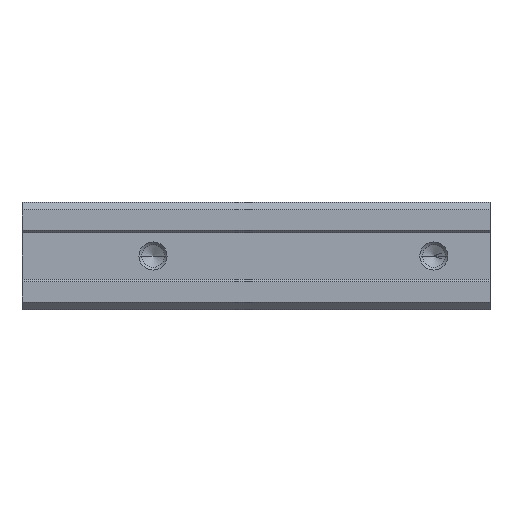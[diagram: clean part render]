
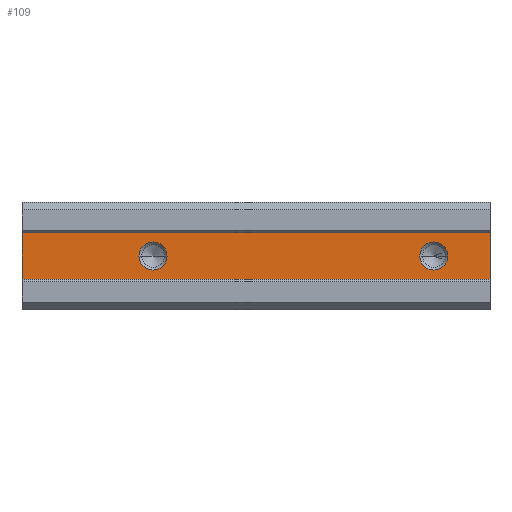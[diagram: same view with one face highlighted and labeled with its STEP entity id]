
A CAD part, front view. The second image highlights one B-rep face of the part: STEP entity #109.
In plain terms, the highlighted planar face has unit normal (0, -1, 0).
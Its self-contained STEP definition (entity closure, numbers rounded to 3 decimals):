
#109 = ADVANCED_FACE( '', ( #184, #185, #186 ), #187, .T. );
#184 = FACE_BOUND( '', #266, .T. );
#185 = FACE_BOUND( '', #267, .T. );
#186 = FACE_OUTER_BOUND( '', #268, .T. );
#187 = PLANE( '', #269 );
#266 = EDGE_LOOP( '', ( #514, #515 ) );
#267 = EDGE_LOOP( '', ( #516, #517 ) );
#268 = EDGE_LOOP( '', ( #518, #519, #520, #521 ) );
#269 = AXIS2_PLACEMENT_3D( '', #522, #523, #524 );
#514 = ORIENTED_EDGE( '', *, *, #623, .T. );
#515 = ORIENTED_EDGE( '', *, *, #624, .T. );
#516 = ORIENTED_EDGE( '', *, *, #617, .T. );
#517 = ORIENTED_EDGE( '', *, *, #626, .T. );
#518 = ORIENTED_EDGE( '', *, *, #695, .T. );
#519 = ORIENTED_EDGE( '', *, *, #696, .F. );
#520 = ORIENTED_EDGE( '', *, *, #697, .T. );
#521 = ORIENTED_EDGE( '', *, *, #693, .T. );
#522 = CARTESIAN_POINT( '', ( 0., 0.5, -5. ) );
#523 = DIRECTION( '', ( 0., -1., 0. ) );
#524 = DIRECTION( '', ( 0., 0., -1. ) );
#617 = EDGE_CURVE( '', #726, #728, #730, .T. );
#623 = EDGE_CURVE( '', #735, #737, #739, .T. );
#624 = EDGE_CURVE( '', #737, #735, #740, .T. );
#626 = EDGE_CURVE( '', #728, #726, #742, .T. );
#693 = EDGE_CURVE( '', #854, #852, #855, .T. );
#695 = EDGE_CURVE( '', #852, #857, #858, .T. );
#696 = EDGE_CURVE( '', #859, #857, #860, .T. );
#697 = EDGE_CURVE( '', #859, #854, #861, .T. );
#726 = VERTEX_POINT( '', #900 );
#728 = VERTEX_POINT( '', #903 );
#730 = CIRCLE( '', #906, 3. );
#735 = VERTEX_POINT( '', #913 );
#737 = VERTEX_POINT( '', #916 );
#739 = CIRCLE( '', #919, 3. );
#740 = CIRCLE( '', #920, 3. );
#742 = CIRCLE( '', #922, 3. );
#852 = VERTEX_POINT( '', #1092 );
#854 = VERTEX_POINT( '', #1095 );
#855 = LINE( '', #1096, #1097 );
#857 = VERTEX_POINT( '', #1100 );
#858 = LINE( '', #1101, #1102 );
#859 = VERTEX_POINT( '', #1103 );
#860 = LINE( '', #1104, #1105 );
#861 = LINE( '', #1106, #1107 );
#900 = CARTESIAN_POINT( '', ( 91., 0.5, 0. ) );
#903 = CARTESIAN_POINT( '', ( 85., 0.5, 0. ) );
#906 = AXIS2_PLACEMENT_3D( '', #1151, #1152, #1153 );
#913 = CARTESIAN_POINT( '', ( 31., 0.5, 0. ) );
#916 = CARTESIAN_POINT( '', ( 25., 0.5, 0. ) );
#919 = AXIS2_PLACEMENT_3D( '', #1161, #1162, #1163 );
#920 = AXIS2_PLACEMENT_3D( '', #1164, #1165, #1166 );
#922 = AXIS2_PLACEMENT_3D( '', #1170, #1171, #1172 );
#1092 = CARTESIAN_POINT( '', ( 100., 0.5, -5. ) );
#1095 = CARTESIAN_POINT( '', ( 0., 0.5, -5. ) );
#1096 = CARTESIAN_POINT( '', ( 0., 0.5, -5. ) );
#1097 = VECTOR( '', #1249, 1. );
#1100 = CARTESIAN_POINT( '', ( 100., 0.5, 5. ) );
#1101 = CARTESIAN_POINT( '', ( 100., 0.5, 5. ) );
#1102 = VECTOR( '', #1251, 1. );
#1103 = CARTESIAN_POINT( '', ( 0., 0.5, 5. ) );
#1104 = CARTESIAN_POINT( '', ( 0., 0.5, 5. ) );
#1105 = VECTOR( '', #1252, 1. );
#1106 = CARTESIAN_POINT( '', ( 0., 0.5, 5. ) );
#1107 = VECTOR( '', #1253, 1. );
#1151 = CARTESIAN_POINT( '', ( 88., 0.5, 0. ) );
#1152 = DIRECTION( '', ( 0., 1., 0. ) );
#1153 = DIRECTION( '', ( 1., 0., 0. ) );
#1161 = CARTESIAN_POINT( '', ( 28., 0.5, 0. ) );
#1162 = DIRECTION( '', ( 0., 1., 0. ) );
#1163 = DIRECTION( '', ( 1., 0., 0. ) );
#1164 = CARTESIAN_POINT( '', ( 28., 0.5, 0. ) );
#1165 = DIRECTION( '', ( 0., 1., 0. ) );
#1166 = DIRECTION( '', ( 1., 0., 0. ) );
#1170 = CARTESIAN_POINT( '', ( 88., 0.5, 0. ) );
#1171 = DIRECTION( '', ( 0., 1., 0. ) );
#1172 = DIRECTION( '', ( 1., 0., 0. ) );
#1249 = DIRECTION( '', ( 1., 0., 0. ) );
#1251 = DIRECTION( '', ( 0., 0., 1. ) );
#1252 = DIRECTION( '', ( 1., 0., 0. ) );
#1253 = DIRECTION( '', ( 0., 0., -1. ) );
